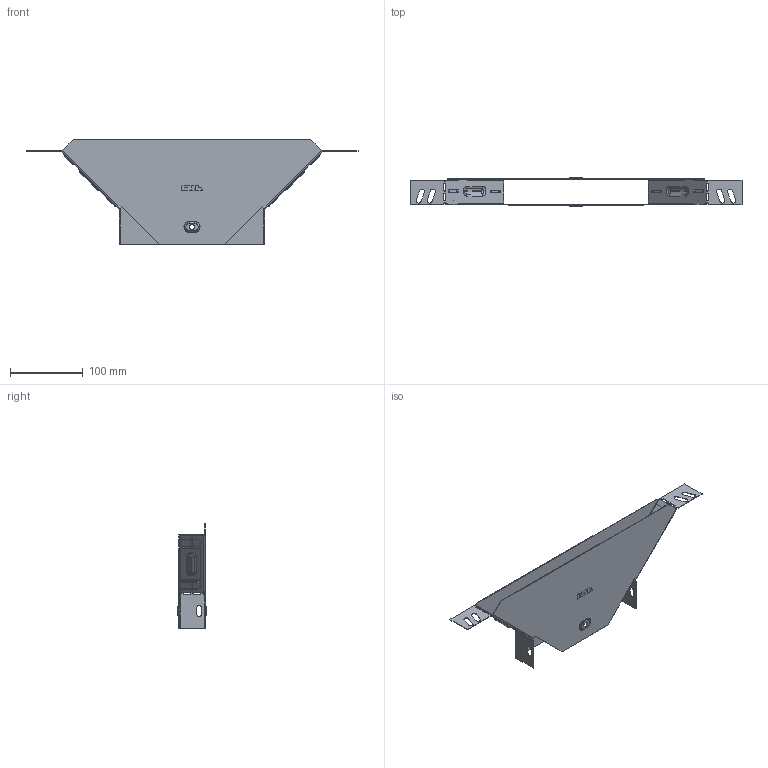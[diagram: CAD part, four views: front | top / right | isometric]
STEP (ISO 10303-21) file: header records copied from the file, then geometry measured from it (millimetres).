
FILE_DESCRIPTION (( 'STEP AP214' ), '1' );
FILE_NAME ('tn3520008_捘.STEP', '2019-06-10T07:59:07', ( '砐錪賧瘔蠈錪 Windows' ), ( '' ), 'SwSTEP 2.0', 'SolidWorks 2018', '' );
FILE_SCHEMA (( 'AUTOMOTIVE_DESIGN' ));
Length unit declared in the file: millimetre
Products named in the file (1): tn3520008_捘
Bounding box: 456.02 x 38.8 x 144 mm (x, y, z)
Volume: 67678.7 mm3; surface area: 171926.6 mm2
Topology: 2 solids, 2 shells, 548 faces, 1504 edges, 960 vertices
Faces by surface type: plane 328, cylinder 154, torus 48, bspline 18
Entity records: 18195 total; most frequent: CARTESIAN_POINT 3971, ORIENTED_EDGE 3008, DIRECTION 2910, EDGE_CURVE 1504, LINE 1088, VECTOR 1088, VERTEX_POINT 960, AXIS2_PLACEMENT_3D 911
